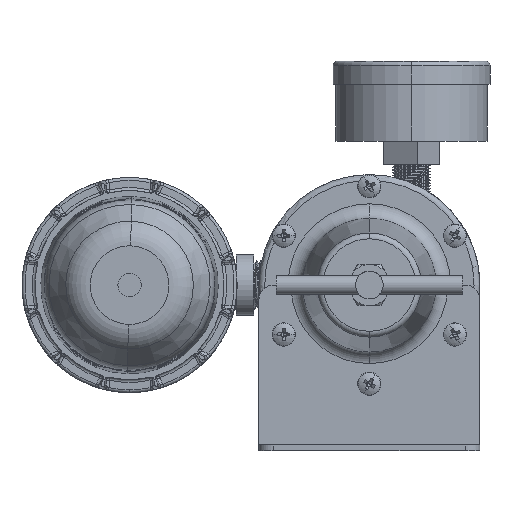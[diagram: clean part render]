
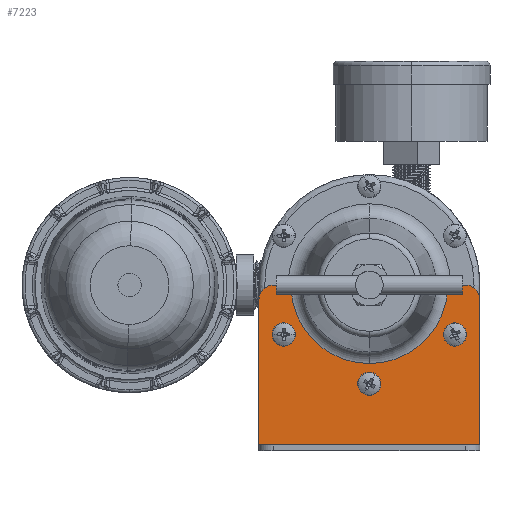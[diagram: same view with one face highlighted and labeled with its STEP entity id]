
A CAD part, front view. The second image highlights one B-rep face of the part: STEP entity #7223.
In plain terms, the highlighted planar face has unit normal (0, -1, 0) as drawn and (0, 1, 0) by its records, which use the part's own axes.
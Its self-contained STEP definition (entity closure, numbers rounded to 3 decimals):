
#26 = DIRECTION ( 'NONE',  ( 0., 1., 0. ) ) ;
#176 = CARTESIAN_POINT ( 'NONE',  ( 26.936, 2., 55.138 ) ) ;
#586 = DIRECTION ( 'NONE',  ( 0., 0., 1. ) ) ;
#979 = CARTESIAN_POINT ( 'NONE',  ( -26.936, 2., 55.138 ) ) ;
#1075 = CARTESIAN_POINT ( 'NONE',  ( -38., 2., 52. ) ) ;
#1249 = CARTESIAN_POINT ( 'NONE',  ( 0., 2., 23. ) ) ;
#1489 = DIRECTION ( 'NONE',  ( 1., 0., 0. ) ) ;
#1919 = CARTESIAN_POINT ( 'NONE',  ( 38., 2., 2. ) ) ;
#2252 = EDGE_CURVE ( 'NONE', #17154, #19956, #14101, .T. ) ;
#3470 = CARTESIAN_POINT ( 'NONE',  ( -38., 2., 0. ) ) ;
#3645 = EDGE_CURVE ( 'NONE', #27795, #30608, #45360, .T. ) ;
#3777 = VECTOR ( 'NONE', #39282, 1000. ) ;
#3876 = CIRCLE ( 'NONE', #23530, 2. ) ;
#4824 = VECTOR ( 'NONE', #5466, 1000. ) ;
#4833 = AXIS2_PLACEMENT_3D ( 'NONE', #33556, #12475, #17739 ) ;
#5466 = DIRECTION ( 'NONE',  ( 1., 0., 0. ) ) ;
#5571 = CIRCLE ( 'NONE', #42920, 2.9 ) ;
#5930 = DIRECTION ( 'NONE',  ( 0., 1., 0. ) ) ;
#6075 = DIRECTION ( 'NONE',  ( 0., 0., 1. ) ) ;
#7223 = ADVANCED_FACE ( 'NONE', ( #21142, #27137, #12829, #27206 ), #8343, .T. ) ;
#7844 = VERTEX_POINT ( 'NONE', #21580 ) ;
#8343 = PLANE ( 'NONE',  #27682 ) ;
#8640 = DIRECTION ( 'NONE',  ( 0., 0., 1. ) ) ;
#8750 = LINE ( 'NONE', #3470, #29872 ) ;
#9067 = ORIENTED_EDGE ( 'NONE', *, *, #35043, .T. ) ;
#9897 = CARTESIAN_POINT ( 'NONE',  ( 0., 2., 0. ) ) ;
#10053 = AXIS2_PLACEMENT_3D ( 'NONE', #34574, #39016, #45753 ) ;
#10307 = EDGE_CURVE ( 'NONE', #12033, #27393, #16435, .T. ) ;
#10416 = VERTEX_POINT ( 'NONE', #21709 ) ;
#10525 = DIRECTION ( 'NONE',  ( 0., 0., 1. ) ) ;
#10937 = DIRECTION ( 'NONE',  ( 0., 1., 0. ) ) ;
#12009 = CARTESIAN_POINT ( 'NONE',  ( 0., 2., 23. ) ) ;
#12033 = VERTEX_POINT ( 'NONE', #42800 ) ;
#12064 = CARTESIAN_POINT ( 'NONE',  ( -28.931, 2., 57. ) ) ;
#12475 = DIRECTION ( 'NONE',  ( 0., 1., 0. ) ) ;
#12534 = DIRECTION ( 'NONE',  ( 0., 0., 1. ) ) ;
#12829 = FACE_BOUND ( 'NONE', #40097, .T. ) ;
#13076 = EDGE_CURVE ( 'NONE', #15615, #13152, #21867, .T. ) ;
#13146 = ORIENTED_EDGE ( 'NONE', *, *, #44639, .F. ) ;
#13152 = VERTEX_POINT ( 'NONE', #12064 ) ;
#13866 = CARTESIAN_POINT ( 'NONE',  ( 38., 2., 0. ) ) ;
#13875 = CARTESIAN_POINT ( 'NONE',  ( -38., 2., 57. ) ) ;
#14101 = CIRCLE ( 'NONE', #4833, 5. ) ;
#14423 = ORIENTED_EDGE ( 'NONE', *, *, #46206, .T. ) ;
#14861 = DIRECTION ( 'NONE',  ( 0., 1., 0. ) ) ;
#15109 = ORIENTED_EDGE ( 'NONE', *, *, #26079, .F. ) ;
#15414 = EDGE_CURVE ( 'NONE', #19508, #15767, #28106, .T. ) ;
#15474 = VERTEX_POINT ( 'NONE', #176 ) ;
#15615 = VERTEX_POINT ( 'NONE', #26157 ) ;
#15767 = VERTEX_POINT ( 'NONE', #1919 ) ;
#15884 = DIRECTION ( 'NONE',  ( 0., 1., 0. ) ) ;
#15980 = CARTESIAN_POINT ( 'NONE',  ( 33., 2., 57. ) ) ;
#16138 = ORIENTED_EDGE ( 'NONE', *, *, #10307, .F. ) ;
#16435 = CIRCLE ( 'NONE', #17012, 2.9 ) ;
#16598 = CARTESIAN_POINT ( 'NONE',  ( -38., 2., 57. ) ) ;
#16681 = ORIENTED_EDGE ( 'NONE', *, *, #31250, .T. ) ;
#16801 = VERTEX_POINT ( 'NONE', #26027 ) ;
#17012 = AXIS2_PLACEMENT_3D ( 'NONE', #38895, #18728, #586 ) ;
#17154 = VERTEX_POINT ( 'NONE', #15980 ) ;
#17190 = EDGE_LOOP ( 'NONE', ( #16138, #15109 ) ) ;
#17347 = AXIS2_PLACEMENT_3D ( 'NONE', #1249, #14861, #26921 ) ;
#17739 = DIRECTION ( 'NONE',  ( 0., 0., 1. ) ) ;
#17747 = CIRCLE ( 'NONE', #39204, 2.9 ) ;
#18054 = VERTEX_POINT ( 'NONE', #979 ) ;
#18600 = ORIENTED_EDGE ( 'NONE', *, *, #2252, .T. ) ;
#18728 = DIRECTION ( 'NONE',  ( 0., 1., 0. ) ) ;
#18927 = DIRECTION ( 'NONE',  ( 0., 1., 0. ) ) ;
#19116 = CARTESIAN_POINT ( 'NONE',  ( 38., 2., 52. ) ) ;
#19508 = VERTEX_POINT ( 'NONE', #38873 ) ;
#19600 = EDGE_CURVE ( 'NONE', #30608, #27795, #5571, .T. ) ;
#19922 = DIRECTION ( 'NONE',  ( 1., 0., 0. ) ) ;
#19956 = VERTEX_POINT ( 'NONE', #19116 ) ;
#19982 = CARTESIAN_POINT ( 'NONE',  ( 28.931, 2., 55. ) ) ;
#20263 = CARTESIAN_POINT ( 'NONE',  ( 29.445, 2., 40. ) ) ;
#20508 = CARTESIAN_POINT ( 'NONE',  ( -29.445, 2., 37.1 ) ) ;
#21142 = FACE_BOUND ( 'NONE', #17190, .T. ) ;
#21310 = CARTESIAN_POINT ( 'NONE',  ( 0., 2., 2. ) ) ;
#21349 = ORIENTED_EDGE ( 'NONE', *, *, #3645, .F. ) ;
#21580 = CARTESIAN_POINT ( 'NONE',  ( 28.931, 2., 57. ) ) ;
#21709 = CARTESIAN_POINT ( 'NONE',  ( 0., 2., 20.1 ) ) ;
#21867 = LINE ( 'NONE', #16598, #40575 ) ;
#22621 = EDGE_CURVE ( 'NONE', #13152, #18054, #3876, .T. ) ;
#23329 = CIRCLE ( 'NONE', #42737, 2. ) ;
#23446 = EDGE_CURVE ( 'NONE', #10416, #16801, #36557, .T. ) ;
#23530 = AXIS2_PLACEMENT_3D ( 'NONE', #27966, #26, #45825 ) ;
#24084 = DIRECTION ( 'NONE',  ( 0., 1., 0. ) ) ;
#25437 = AXIS2_PLACEMENT_3D ( 'NONE', #12009, #27875, #10525 ) ;
#25597 = VERTEX_POINT ( 'NONE', #1075 ) ;
#26027 = CARTESIAN_POINT ( 'NONE',  ( 0., 2., 25.9 ) ) ;
#26079 = EDGE_CURVE ( 'NONE', #27393, #12033, #17747, .T. ) ;
#26157 = CARTESIAN_POINT ( 'NONE',  ( -33., 2., 57. ) ) ;
#26921 = DIRECTION ( 'NONE',  ( 0., 0., 1. ) ) ;
#27015 = CARTESIAN_POINT ( 'NONE',  ( -29.445, 2., 40. ) ) ;
#27137 = FACE_BOUND ( 'NONE', #41442, .T. ) ;
#27206 = FACE_OUTER_BOUND ( 'NONE', #40227, .T. ) ;
#27393 = VERTEX_POINT ( 'NONE', #20508 ) ;
#27562 = CARTESIAN_POINT ( 'NONE',  ( 29.445, 2., 37.1 ) ) ;
#27682 = AXIS2_PLACEMENT_3D ( 'NONE', #9897, #18927, #39857 ) ;
#27795 = VERTEX_POINT ( 'NONE', #27562 ) ;
#27875 = DIRECTION ( 'NONE',  ( 0., 1., 0. ) ) ;
#27966 = CARTESIAN_POINT ( 'NONE',  ( -28.931, 2., 55. ) ) ;
#28106 = LINE ( 'NONE', #21310, #4824 ) ;
#28208 = LINE ( 'NONE', #13875, #32886 ) ;
#29433 = CARTESIAN_POINT ( 'NONE',  ( 29.445, 2., 42.9 ) ) ;
#29543 = DIRECTION ( 'NONE',  ( 0., 1., 0. ) ) ;
#29733 = EDGE_CURVE ( 'NONE', #15474, #7844, #23329, .T. ) ;
#29872 = VECTOR ( 'NONE', #12534, 1000. ) ;
#30021 = DIRECTION ( 'NONE',  ( 0., 0., 1. ) ) ;
#30608 = VERTEX_POINT ( 'NONE', #29433 ) ;
#31013 = DIRECTION ( 'NONE',  ( 0., 0., 1. ) ) ;
#31250 = EDGE_CURVE ( 'NONE', #25597, #15615, #32232, .T. ) ;
#31271 = AXIS2_PLACEMENT_3D ( 'NONE', #42149, #29543, #31013 ) ;
#32213 = ORIENTED_EDGE ( 'NONE', *, *, #23446, .F. ) ;
#32232 = CIRCLE ( 'NONE', #10053, 5. ) ;
#32886 = VECTOR ( 'NONE', #19922, 1000. ) ;
#33253 = ORIENTED_EDGE ( 'NONE', *, *, #40837, .T. ) ;
#33556 = CARTESIAN_POINT ( 'NONE',  ( 33., 2., 52. ) ) ;
#33997 = ORIENTED_EDGE ( 'NONE', *, *, #19600, .F. ) ;
#34031 = CIRCLE ( 'NONE', #17347, 2.9 ) ;
#34574 = CARTESIAN_POINT ( 'NONE',  ( -33., 2., 52. ) ) ;
#35043 = EDGE_CURVE ( 'NONE', #19508, #25597, #8750, .T. ) ;
#35910 = ORIENTED_EDGE ( 'NONE', *, *, #29733, .T. ) ;
#36389 = ORIENTED_EDGE ( 'NONE', *, *, #22621, .T. ) ;
#36557 = CIRCLE ( 'NONE', #25437, 2.9 ) ;
#37615 = CARTESIAN_POINT ( 'NONE',  ( 29.445, 2., 40. ) ) ;
#38873 = CARTESIAN_POINT ( 'NONE',  ( -38., 2., 2. ) ) ;
#38895 = CARTESIAN_POINT ( 'NONE',  ( -29.445, 2., 40. ) ) ;
#39016 = DIRECTION ( 'NONE',  ( 0., 1., 0. ) ) ;
#39088 = ORIENTED_EDGE ( 'NONE', *, *, #15414, .F. ) ;
#39204 = AXIS2_PLACEMENT_3D ( 'NONE', #27015, #24084, #30021 ) ;
#39282 = DIRECTION ( 'NONE',  ( 0., 0., -1. ) ) ;
#39857 = DIRECTION ( 'NONE',  ( 0., 0., 1. ) ) ;
#39869 = ORIENTED_EDGE ( 'NONE', *, *, #13076, .T. ) ;
#40097 = EDGE_LOOP ( 'NONE', ( #44828, #32213 ) ) ;
#40227 = EDGE_LOOP ( 'NONE', ( #14423, #18600, #33253, #39088, #9067, #16681, #39869, #36389, #13146, #35910 ) ) ;
#40575 = VECTOR ( 'NONE', #1489, 1000. ) ;
#40837 = EDGE_CURVE ( 'NONE', #19956, #15767, #43787, .T. ) ;
#41340 = AXIS2_PLACEMENT_3D ( 'NONE', #20263, #5930, #44271 ) ;
#41442 = EDGE_LOOP ( 'NONE', ( #33997, #21349 ) ) ;
#42149 = CARTESIAN_POINT ( 'NONE',  ( 0., 2., 57. ) ) ;
#42322 = CIRCLE ( 'NONE', #31271, 27. ) ;
#42737 = AXIS2_PLACEMENT_3D ( 'NONE', #19982, #10937, #8640 ) ;
#42800 = CARTESIAN_POINT ( 'NONE',  ( -29.445, 2., 42.9 ) ) ;
#42920 = AXIS2_PLACEMENT_3D ( 'NONE', #37615, #15884, #6075 ) ;
#43787 = LINE ( 'NONE', #13866, #3777 ) ;
#44271 = DIRECTION ( 'NONE',  ( 0., 0., 1. ) ) ;
#44639 = EDGE_CURVE ( 'NONE', #15474, #18054, #42322, .T. ) ;
#44828 = ORIENTED_EDGE ( 'NONE', *, *, #46091, .F. ) ;
#45360 = CIRCLE ( 'NONE', #41340, 2.9 ) ;
#45753 = DIRECTION ( 'NONE',  ( 0., 0., 1. ) ) ;
#45825 = DIRECTION ( 'NONE',  ( 0., 0., 1. ) ) ;
#46091 = EDGE_CURVE ( 'NONE', #16801, #10416, #34031, .T. ) ;
#46206 = EDGE_CURVE ( 'NONE', #7844, #17154, #28208, .T. ) ;
